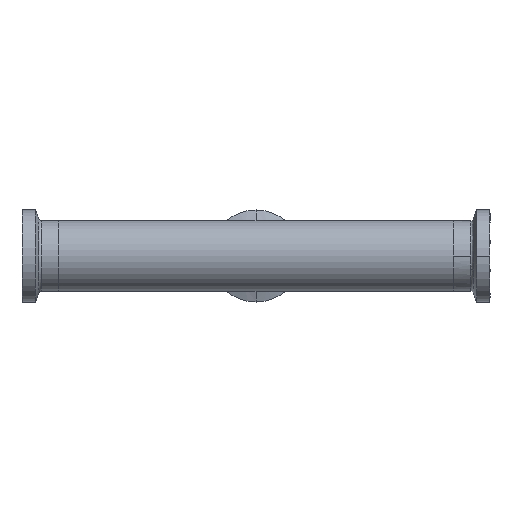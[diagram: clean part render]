
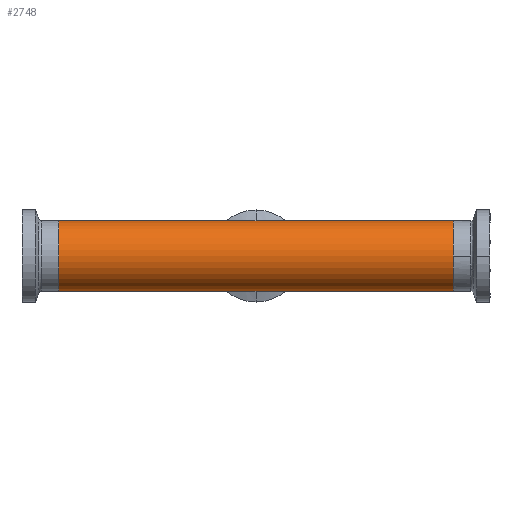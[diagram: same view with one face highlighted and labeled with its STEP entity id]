
A CAD part, front view. The second image highlights one B-rep face of the part: STEP entity #2748.
In plain terms, the highlighted cylindrical face has radius 9.525 mm (diameter 19.05 mm), a partial arc.
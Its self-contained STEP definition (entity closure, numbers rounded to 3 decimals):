
#35 = CYLINDRICAL_SURFACE ( 'NONE', #2026, 9.525 ) ;
#83 = EDGE_CURVE ( 'NONE', #1920, #1212, #344, .T. ) ;
#151 = EDGE_LOOP ( 'NONE', ( #1690, #2125, #2624, #1203 ) ) ;
#342 = EDGE_CURVE ( 'NONE', #1920, #1209, #2603, .T. ) ;
#344 = LINE ( 'NONE', #1940, #1298 ) ;
#385 = DIRECTION ( 'NONE',  ( 0., 0., 1. ) ) ;
#396 = DIRECTION ( 'NONE',  ( 0., 0., 1. ) ) ;
#530 = CIRCLE ( 'NONE', #1585, 9.525 ) ;
#532 = DIRECTION ( 'NONE',  ( -1., 0., 0. ) ) ;
#850 = VECTOR ( 'NONE', #2182, 1000. ) ;
#986 = EDGE_CURVE ( 'NONE', #1621, #1212, #530, .T. ) ;
#1077 = CARTESIAN_POINT ( 'NONE',  ( -53.5, 0., 9.525 ) ) ;
#1131 = EDGE_CURVE ( 'NONE', #1209, #1621, #2425, .T. ) ;
#1203 = ORIENTED_EDGE ( 'NONE', *, *, #986, .T. ) ;
#1209 = VERTEX_POINT ( 'NONE', #1593 ) ;
#1212 = VERTEX_POINT ( 'NONE', #1709 ) ;
#1253 = DIRECTION ( 'NONE',  ( -1., 0., 0. ) ) ;
#1258 = FACE_OUTER_BOUND ( 'NONE', #151, .T. ) ;
#1277 = CARTESIAN_POINT ( 'NONE',  ( 53.5, 0., -9.525 ) ) ;
#1298 = VECTOR ( 'NONE', #2494, 1000. ) ;
#1585 = AXIS2_PLACEMENT_3D ( 'NONE', #1976, #1893, #1884 ) ;
#1593 = CARTESIAN_POINT ( 'NONE',  ( 53.5, 0., 9.525 ) ) ;
#1621 = VERTEX_POINT ( 'NONE', #1077 ) ;
#1675 = CARTESIAN_POINT ( 'NONE',  ( 80.441, 0., 0. ) ) ;
#1690 = ORIENTED_EDGE ( 'NONE', *, *, #83, .F. ) ;
#1706 = AXIS2_PLACEMENT_3D ( 'NONE', #2533, #532, #396 ) ;
#1709 = CARTESIAN_POINT ( 'NONE',  ( -53.5, 0., -9.525 ) ) ;
#1884 = DIRECTION ( 'NONE',  ( 0., 0., 1. ) ) ;
#1893 = DIRECTION ( 'NONE',  ( 1., 0., 0. ) ) ;
#1920 = VERTEX_POINT ( 'NONE', #1277 ) ;
#1940 = CARTESIAN_POINT ( 'NONE',  ( 80.441, 0., -9.525 ) ) ;
#1976 = CARTESIAN_POINT ( 'NONE',  ( -53.5, 0., 0. ) ) ;
#2026 = AXIS2_PLACEMENT_3D ( 'NONE', #1675, #1253, #385 ) ;
#2070 = CARTESIAN_POINT ( 'NONE',  ( 80.441, 0., 9.525 ) ) ;
#2125 = ORIENTED_EDGE ( 'NONE', *, *, #342, .T. ) ;
#2182 = DIRECTION ( 'NONE',  ( -1., 0., 0. ) ) ;
#2425 = LINE ( 'NONE', #2070, #850 ) ;
#2494 = DIRECTION ( 'NONE',  ( -1., 0., 0. ) ) ;
#2533 = CARTESIAN_POINT ( 'NONE',  ( 53.5, 0., 0. ) ) ;
#2603 = CIRCLE ( 'NONE', #1706, 9.525 ) ;
#2624 = ORIENTED_EDGE ( 'NONE', *, *, #1131, .T. ) ;
#2748 = ADVANCED_FACE ( 'NONE', ( #1258 ), #35, .T. ) ;
